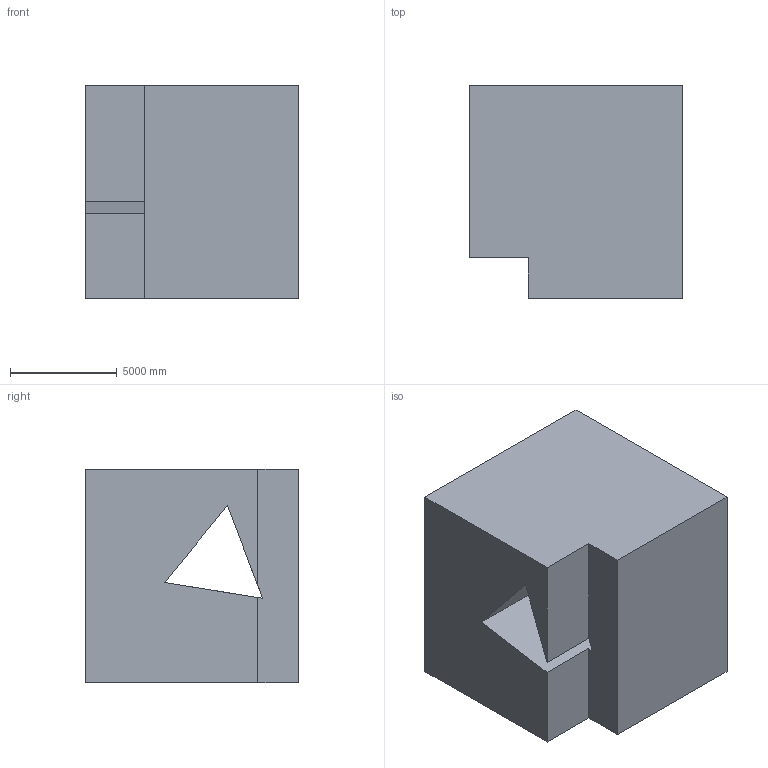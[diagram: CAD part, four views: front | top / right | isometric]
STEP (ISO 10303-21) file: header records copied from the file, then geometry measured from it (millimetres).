
FILE_DESCRIPTION (( 'STEP AP203' ), '1' );
FILE_NAME ('82.STEP', '2022-08-04T14:17:00', ( 'user' ), ( '' ), 'SwSTEP 2.0', 'SolidWorks 2021', '' );
FILE_SCHEMA (( 'CONFIG_CONTROL_DESIGN' ));
Length unit declared in the file: centimetre
Products named in the file (1): 82
Bounding box: 10000 x 10000 x 10000 mm (x, y, z)
Volume: 853596498991.1 mm3; surface area: 706116461.6 mm2
Topology: 1 solids, 1 shells, 12 faces, 33 edges, 22 vertices
Faces by surface type: plane 12
Entity records: 458 total; most frequent: CARTESIAN_POINT 68, ORIENTED_EDGE 66, DIRECTION 59, EDGE_CURVE 33, VECTOR 33, LINE 33, VERTEX_POINT 22, EDGE_LOOP 13
